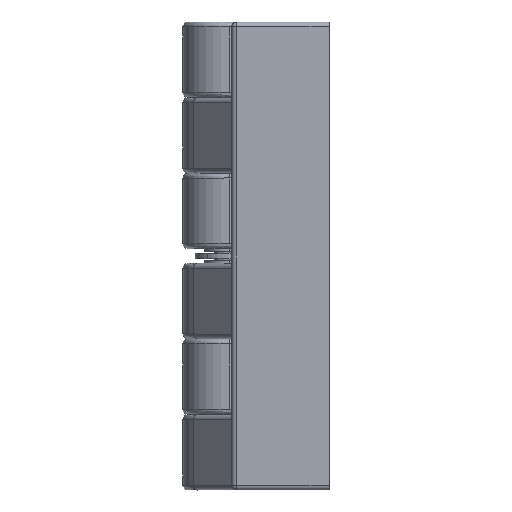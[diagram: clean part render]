
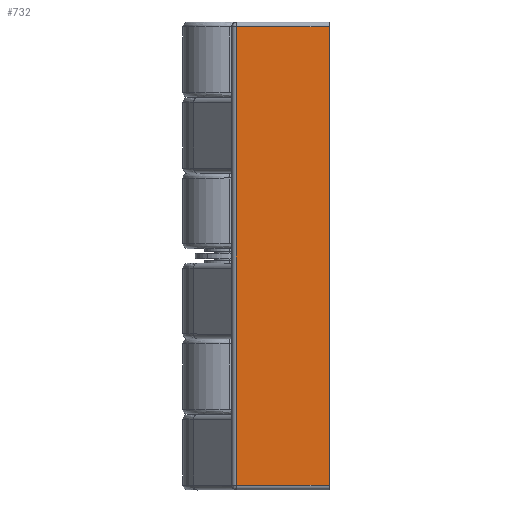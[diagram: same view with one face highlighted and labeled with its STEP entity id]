
A CAD part, left-side view. The second image highlights one B-rep face of the part: STEP entity #732.
In plain terms, the highlighted planar face has unit normal (-1, 0, 0) as drawn and (1, 0, 0) by its records, which use the part's own axes.
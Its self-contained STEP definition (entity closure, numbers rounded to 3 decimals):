
#194 = EDGE_CURVE ( 'NONE', #303, #301, #1533, .T. ) ;
#216 = VERTEX_POINT ( 'NONE', #1600 ) ;
#301 = VERTEX_POINT ( 'NONE', #1762 ) ;
#303 = VERTEX_POINT ( 'NONE', #1761 ) ;
#349 = EDGE_CURVE ( 'NONE', #366, #216, #1796, .T. ) ;
#366 = VERTEX_POINT ( 'NONE', #2042 ) ;
#623 = EDGE_CURVE ( 'NONE', #216, #303, #2411, .T. ) ;
#668 = ORIENTED_EDGE ( 'NONE', *, *, #755, .T. ) ;
#682 = EDGE_LOOP ( 'NONE', ( #702, #754, #756, #668 ) ) ;
#702 = ORIENTED_EDGE ( 'NONE', *, *, #194, .F. ) ;
#732 = ADVANCED_FACE ( 'NONE', ( #3680 ), #3676, .F. ) ;
#754 = ORIENTED_EDGE ( 'NONE', *, *, #623, .F. ) ;
#755 = EDGE_CURVE ( 'NONE', #366, #301, #3761, .T. ) ;
#756 = ORIENTED_EDGE ( 'NONE', *, *, #349, .F. ) ;
#1533 = LINE ( 'NONE', #1553, #1657 ) ;
#1553 = CARTESIAN_POINT ( 'NONE',  ( 24., -5.5, -23.5 ) ) ;
#1600 = CARTESIAN_POINT ( 'NONE',  ( 24., -0.75, 23.5 ) ) ;
#1603 = DIRECTION ( 'NONE',  ( 0., -1., 0. ) ) ;
#1657 = VECTOR ( 'NONE', #1603, 1000. ) ;
#1761 = CARTESIAN_POINT ( 'NONE',  ( 24., -0.75, -23.5 ) ) ;
#1762 = CARTESIAN_POINT ( 'NONE',  ( 24., -10.25, -23.5 ) ) ;
#1793 = DIRECTION ( 'NONE',  ( 0., 1., 0. ) ) ;
#1794 = VECTOR ( 'NONE', #1793, 1000. ) ;
#1795 = CARTESIAN_POINT ( 'NONE',  ( 24., -5.5, 23.5 ) ) ;
#1796 = LINE ( 'NONE', #1795, #1794 ) ;
#2042 = CARTESIAN_POINT ( 'NONE',  ( 24., -10.25, 23.5 ) ) ;
#2378 = DIRECTION ( 'NONE',  ( 0., 0., -1. ) ) ;
#2382 = VECTOR ( 'NONE', #2378, 1000. ) ;
#2410 = CARTESIAN_POINT ( 'NONE',  ( 24., -0.75, 0. ) ) ;
#2411 = LINE ( 'NONE', #2410, #2382 ) ;
#3676 = PLANE ( 'NONE',  #3679 ) ;
#3679 = AXIS2_PLACEMENT_3D ( 'NONE', #3688, #3687, #3699 ) ;
#3680 = FACE_OUTER_BOUND ( 'NONE', #682, .T. ) ;
#3687 = DIRECTION ( 'NONE',  ( -1., 0., 0. ) ) ;
#3688 = CARTESIAN_POINT ( 'NONE',  ( 24., -10.25, -23.5 ) ) ;
#3699 = DIRECTION ( 'NONE',  ( 0., 0., 1. ) ) ;
#3758 = DIRECTION ( 'NONE',  ( 0., 0., -1. ) ) ;
#3759 = VECTOR ( 'NONE', #3758, 1000. ) ;
#3760 = CARTESIAN_POINT ( 'NONE',  ( 24., -10.25, 0. ) ) ;
#3761 = LINE ( 'NONE', #3760, #3759 ) ;
